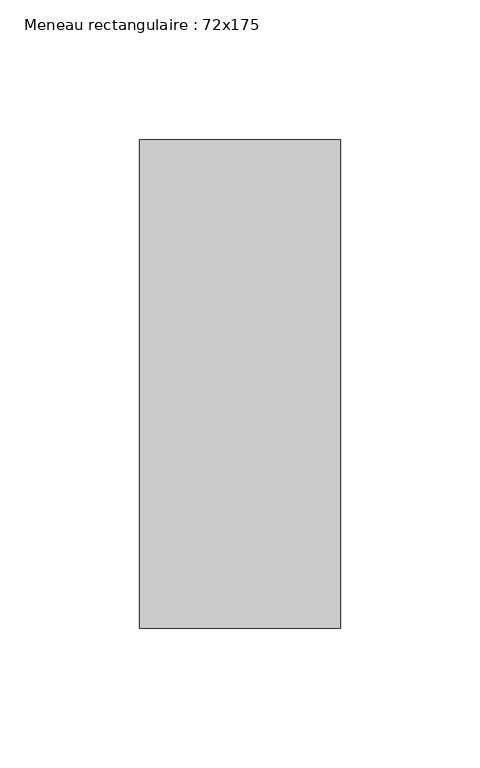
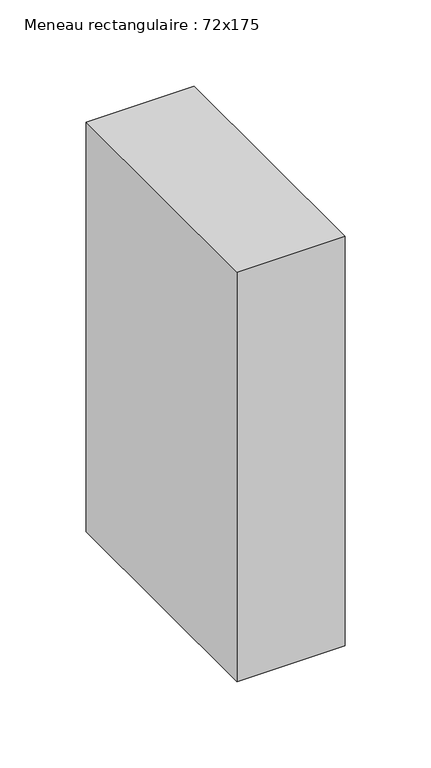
"""IFC4 building model written with IfcOpenShell, lengths in millimetres: member geometry, Meneau rectangulaire : 72x175."""

from ifc_helpers import new_model, si_unit, frame, origin, place, context, project, spatial, polyline, outline, extrude, source, transform, mapped, element, save


def meneau_rectangulaire_72x175_1203d0cd(model_context):
    return source(origin(), model_context, "Body", "SweptSolid", [
        extrude(outline(polyline([(36.0, 87.5), (36.0, -87.5), (-36.0, -87.5), (-36.0, 87.5), (36.0, 87.5)])), frame((0.0, 0.0, -289.482842), z_axis=(0.0, 0.0, 1.0), x_axis=(1.0, 0.0, 0.0)), (0.0, 0.0, 1.0), 289.482842),
    ])


if __name__ == "__main__":
    model = new_model("IFC4")
    model_context = context("Model", 3, world=origin())
    ifc_project = project(units=[si_unit("LENGTHUNIT", "METRE", prefix="MILLI")], contexts=[model_context])
    site = spatial("IfcSite", under=ifc_project)
    building = spatial("IfcBuilding", under=site)
    placement = place(None, origin())
    meneau_rectangulaire_72x175_shape = meneau_rectangulaire_72x175_1203d0cd(model_context)
    element("IfcMember", 1, ObjectType="Meneau rectangulaire : 72x175", at=placement, inside=building, context=model_context, shape_type="MappedRepresentation", body=[
        mapped(meneau_rectangulaire_72x175_shape, transform((0.0, 0.0, 0.0), x_axis=(1.0, 0.0, 0.0), y_axis=(0.0, 1.0, 0.0), z_axis=(0.0, 0.0, 1.0))),
    ])
    save(model, "model.ifc")
